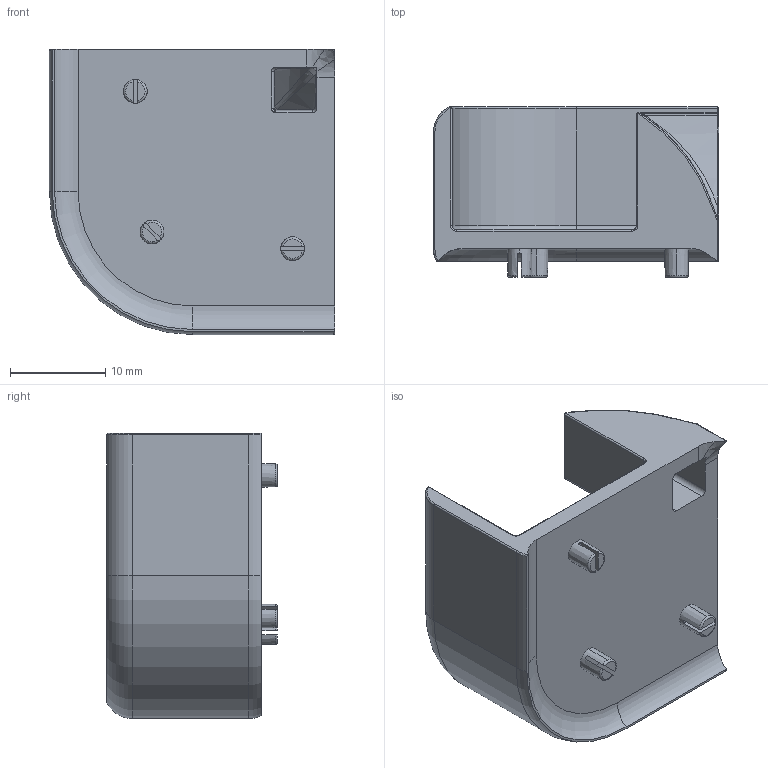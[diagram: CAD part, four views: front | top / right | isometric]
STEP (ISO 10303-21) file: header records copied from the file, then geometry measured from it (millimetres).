
FILE_DESCRIPTION (( 'STEP AP203' ), '1' );
FILE_NAME ('013.030.131.STEP', '2021-02-19T14:00:10', ( 'Localadmin' ), ( 'Microsoft' ), 'SwSTEP 2.0', 'SolidWorks 2018', '' );
FILE_SCHEMA (( 'CONFIG_CONTROL_DESIGN' ));
Length unit declared in the file: millimetre
Products named in the file (1): 013.030.131
Bounding box: 29.9 x 17.89 x 29.9 mm (x, y, z)
Volume: 3553 mm3; surface area: 3951.4 mm2
Topology: 1 solids, 1 shells, 126 faces, 306 edges, 181 vertices
Faces by surface type: cylinder 37, plane 30, torus 29, bspline 21, cone 6, sphere 3
Entity records: 4306 total; most frequent: CARTESIAN_POINT 1446, ORIENTED_EDGE 600, DIRECTION 579, EDGE_CURVE 300, AXIS2_PLACEMENT_3D 244, VERTEX_POINT 179, CIRCLE 138, EDGE_LOOP 129
